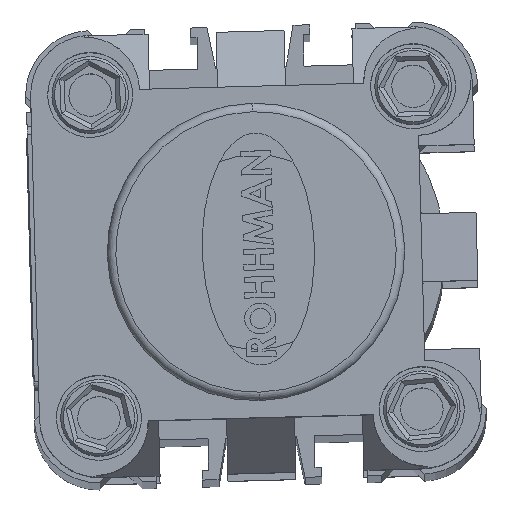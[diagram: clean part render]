
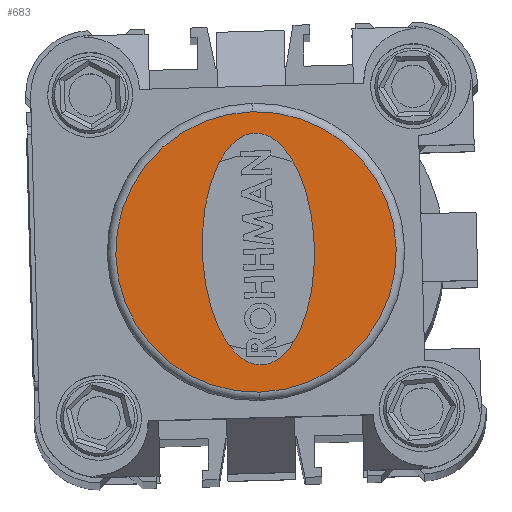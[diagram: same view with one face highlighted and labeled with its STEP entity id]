
A CAD part, top view. The second image highlights one B-rep face of the part: STEP entity #683.
In plain terms, the highlighted planar face has unit normal (0, 0, 1) as drawn and (0, 0, -1) by its records, which use the part's own axes.
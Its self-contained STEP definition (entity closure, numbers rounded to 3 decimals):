
#683 = ADVANCED_FACE ( 'NONE', ( #1378, #21474 ), #1065, .T. ) ;
#1065 = PLANE ( 'NONE',  #25235 ) ;
#1378 = FACE_BOUND ( 'NONE', #6445, .T. ) ;
#1452 = CARTESIAN_POINT ( 'NONE',  ( 9.5, 26., -4. ) ) ;
#2156 = VERTEX_POINT ( 'NONE', #25548 ) ;
#2202 = EDGE_CURVE ( 'NONE', #2413, #13216, #27199, .T. ) ;
#2413 = VERTEX_POINT ( 'NONE', #6757 ) ;
#2897 = ORIENTED_EDGE ( 'NONE', *, *, #4446, .F. ) ;
#4217 = DIRECTION ( 'NONE',  ( 0., 0., -1. ) ) ;
#4446 = EDGE_CURVE ( 'NONE', #6920, #2156, #27069, .T. ) ;
#4914 = CARTESIAN_POINT ( 'NONE',  ( 12.017, 12.525, -4. ) ) ;
#5037 = CIRCLE ( 'NONE', #18792, 16.5 ) ;
#6445 = EDGE_LOOP ( 'NONE', ( #23966, #2897 ) ) ;
#6528 = AXIS2_PLACEMENT_3D ( 'NONE', #18860, #26532, #28823 ) ;
#6757 = CARTESIAN_POINT ( 'NONE',  ( 42.5, 26., -4. ) ) ;
#6920 = VERTEX_POINT ( 'NONE', #27474 ) ;
#7725 = CARTESIAN_POINT ( 'NONE',  ( 39.297, 25.719, -4. ) ) ;
#13216 = VERTEX_POINT ( 'NONE', #1452 ) ;
#13634 = DIRECTION ( 'NONE',  ( -1., 0., 0. ) ) ;
#13665 = EDGE_CURVE ( 'NONE', #2156, #6920, #21138, .T. ) ;
#17669 = CARTESIAN_POINT ( 'NONE',  ( 12.017, 25.719, -4. ) ) ;
#18792 = AXIS2_PLACEMENT_3D ( 'NONE', #21284, #31735, #13634 ) ;
#18860 = CARTESIAN_POINT ( 'NONE',  ( 26., 26., -4. ) ) ;
#20457 = EDGE_CURVE ( 'NONE', #13216, #2413, #5037, .T. ) ;
#21138 =( BOUNDED_CURVE ( )  B_SPLINE_CURVE ( 3, ( #7725, #27316, #4914, #17669 ),
 .UNSPECIFIED., .F., .F. ) 
 B_SPLINE_CURVE_WITH_KNOTS ( ( 4, 4 ),
 ( 0., 3.142 ),
 .UNSPECIFIED. ) 
 CURVE ( )  GEOMETRIC_REPRESENTATION_ITEM ( )  RATIONAL_B_SPLINE_CURVE ( ( 1., 0.333, 0.333, 1. ) ) 
 REPRESENTATION_ITEM ( '' )  );
#21284 = CARTESIAN_POINT ( 'NONE',  ( 26., 26., -4. ) ) ;
#21474 = FACE_OUTER_BOUND ( 'NONE', #24713, .T. ) ;
#22873 = CARTESIAN_POINT ( 'NONE',  ( 39.297, 25.719, -4. ) ) ;
#23191 = ORIENTED_EDGE ( 'NONE', *, *, #20457, .T. ) ;
#23966 = ORIENTED_EDGE ( 'NONE', *, *, #13665, .F. ) ;
#24713 = EDGE_LOOP ( 'NONE', ( #23191, #32088 ) ) ;
#25235 = AXIS2_PLACEMENT_3D ( 'NONE', #26969, #4217, #31919 ) ;
#25548 = CARTESIAN_POINT ( 'NONE',  ( 39.297, 25.719, -4. ) ) ;
#26532 = DIRECTION ( 'NONE',  ( 0., 0., -1. ) ) ;
#26969 = CARTESIAN_POINT ( 'NONE',  ( 26., 26., -4. ) ) ;
#27069 =( BOUNDED_CURVE ( )  B_SPLINE_CURVE ( 3, ( #30496, #27996, #32654, #22873 ),
 .UNSPECIFIED., .F., .T. ) 
 B_SPLINE_CURVE_WITH_KNOTS ( ( 4, 4 ),
 ( 3.142, 6.283 ),
 .UNSPECIFIED. ) 
 CURVE ( )  GEOMETRIC_REPRESENTATION_ITEM ( )  RATIONAL_B_SPLINE_CURVE ( ( 1., 0.333, 0.333, 1. ) ) 
 REPRESENTATION_ITEM ( '' )  );
#27199 = CIRCLE ( 'NONE', #6528, 16.5 ) ;
#27316 = CARTESIAN_POINT ( 'NONE',  ( 39.297, 12.525, -4. ) ) ;
#27474 = CARTESIAN_POINT ( 'NONE',  ( 12.017, 25.719, -4. ) ) ;
#27996 = CARTESIAN_POINT ( 'NONE',  ( 12.017, 38.913, -4. ) ) ;
#28823 = DIRECTION ( 'NONE',  ( -1., 0., 0. ) ) ;
#30496 = CARTESIAN_POINT ( 'NONE',  ( 12.017, 25.719, -4. ) ) ;
#31735 = DIRECTION ( 'NONE',  ( 0., 0., -1. ) ) ;
#31919 = DIRECTION ( 'NONE',  ( -1., 0., 0. ) ) ;
#32088 = ORIENTED_EDGE ( 'NONE', *, *, #2202, .T. ) ;
#32654 = CARTESIAN_POINT ( 'NONE',  ( 39.297, 38.913, -4. ) ) ;
